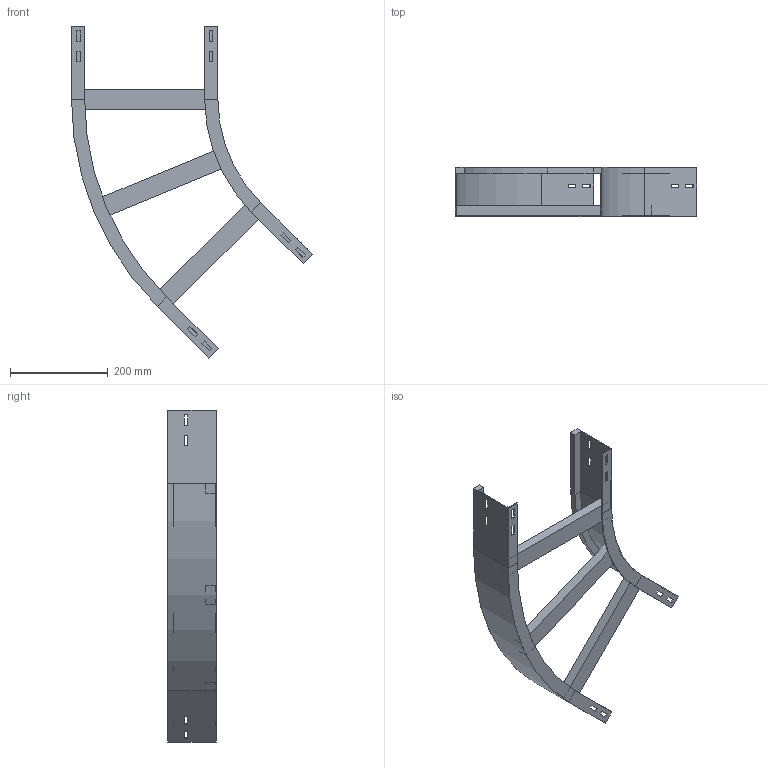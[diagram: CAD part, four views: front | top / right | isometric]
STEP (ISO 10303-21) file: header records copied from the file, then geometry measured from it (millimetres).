
FILE_DESCRIPTION (( 'STEP AP214' ), '1' );
FILE_NAME ('A2_11B3D300.step', '2025-02-21T15:12:19', ( '' ), ( '' ), 'SwSTEP 2.0', 'SolidWorks 2023', '' );
FILE_SCHEMA (( 'AUTOMOTIVE_DESIGN' ));
Length unit declared in the file: millimetre
Products named in the file (4): A2_LONGH.ESTERNO 45°_H100_R300+300; A2_11B3D300; A2_LONGH.INTERNO 45°_H100_R300; TRAVERSINO_300
Assembly tree (5 placements, depth 2):
  A2_11B3D300
    A2_LONGH.INTERNO 45°_H100_R300
    A2_LONGH.ESTERNO 45°_H100_R300+300
    TRAVERSINO_300  x3
Bounding box: 493.93 x 100 x 680.33 mm (x, y, z)
Volume: 1291983.4 mm3; surface area: 484765.5 mm2
Topology: 5 solids, 5 shells, 134 faces, 340 edges, 216 vertices
Faces by surface type: plane 126, cylinder 8
Entity records: 3821 total; most frequent: CARTESIAN_POINT 646, ORIENTED_EDGE 632, DIRECTION 592, EDGE_CURVE 316, VECTOR 300, LINE 300, VERTEX_POINT 200, EDGE_LOOP 154
